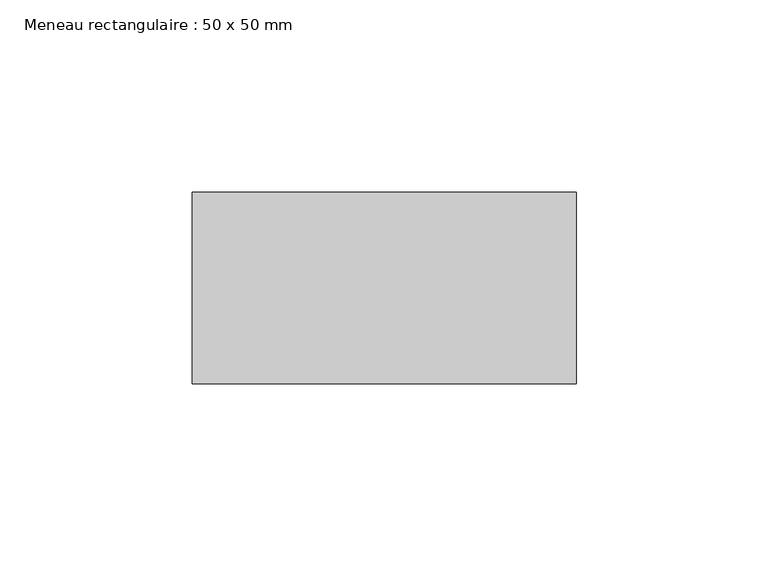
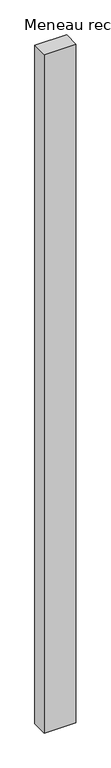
"""IFC4 building model written with IfcOpenShell, lengths in millimetres: member geometry, Meneau rectangulaire : 50 x 50 mm."""

import ifcopenshell
import ifcopenshell.guid

model = None  # the IFC model being written
_history = None  # IfcOwnerHistory: only IFC2X3 demands one
_inside = {}  # id of a spatial element -> (the spatial element, [elements in it])
_under = {}  # id of a project, library or spatial element -> (it, [spatial elements below it])
_declared = {}  # id of a project -> (the project, [libraries it declares])
_typed = {}  # id of a type object -> (the type object, [elements of that type])
_made_of = {}  # id of a material, layer set ... -> (it, [elements and type objects made of it])


def new_model(schema):
    """Start an empty IFC model of exactly this schema.

    Asked for "IFC4X3", IfcOpenShell would pick the latest addendum, in which some entities
    have other attributes; the version numbers below select the first issue.
    IFC2X3 requires an IfcOwnerHistory on every rooted entity: one is made here for all.
    """
    global model, _history
    if schema == "IFC4X3":
        model = ifcopenshell.file(schema_version=(4, 3, 0, 0))
    else:
        model = ifcopenshell.file(schema=schema)
    _inside.clear()
    _under.clear()
    _declared.clear()
    _typed.clear()
    _made_of.clear()
    _history = None
    if model.schema == "IFC2X3":
        org = make("IfcOrganization", Name="unknown")
        user = make(
            "IfcPersonAndOrganization",
            ThePerson=make("IfcPerson", FamilyName="unknown"),
            TheOrganization=org,
        )
        app = make(
            "IfcApplication",
            ApplicationDeveloper=org,
            Version="unknown",
            ApplicationFullName="unknown",
            ApplicationIdentifier="unknown",
        )
        _history = make(
            "IfcOwnerHistory",
            OwningUser=user,
            OwningApplication=app,
            ChangeAction="ADDED",
            CreationDate=0,
        )
    return model


def make(cls, **values):
    """One entity of the class cls with the attributes given. An attribute that is None is left unset."""
    return model.create_entity(
        cls, **{name: value for name, value in values.items() if value is not None}
    )


def rooted(cls, **values):
    """An entity with a GlobalId (a new one), such as an element, a storey or a relation."""
    return make(cls, GlobalId=ifcopenshell.guid.new(), OwnerHistory=_history, **values)


def si_unit(unit_type, name, prefix=None):
    """IfcSIUnit, for example si_unit("LENGTHUNIT", "METRE", prefix="MILLI")."""
    return make("IfcSIUnit", UnitType=unit_type, Prefix=prefix, Name=name)


def assignment(units):
    """IfcUnitAssignment: the units of a project."""
    return None if units is None else make("IfcUnitAssignment", Units=units)


def point(xyz):
    """IfcCartesianPoint."""
    return None if xyz is None else make("IfcCartesianPoint", Coordinates=xyz)


def direction(xyz):
    """IfcDirection."""
    return None if xyz is None else make("IfcDirection", DirectionRatios=xyz)


def frame(location, z_axis=None, x_axis=None):
    """IfcAxis2Placement3D, a coordinate frame: its origin and axes. An axis left out is left unset."""
    return make(
        "IfcAxis2Placement3D",
        Location=point(location),
        Axis=direction(z_axis),
        RefDirection=direction(x_axis),
    )


def origin():
    """The frame at (0, 0, 0) with its axes left unset."""
    return frame((0.0, 0.0, 0.0))


def place(relative_to, where):
    """IfcLocalPlacement: puts the frame where relative to a parent placement (None: the world)."""
    return make(
        "IfcLocalPlacement", PlacementRelTo=relative_to, RelativePlacement=where
    )


def context(
    kind, dimensions, precision=None, world=None, true_north=None, identifier=None
):
    """IfcGeometricRepresentationContext, for example the 3D "Model" context."""
    return make(
        "IfcGeometricRepresentationContext",
        ContextIdentifier=identifier,
        ContextType=kind,
        CoordinateSpaceDimension=dimensions,
        Precision=precision,
        WorldCoordinateSystem=world,
        TrueNorth=true_north,
    )


def project(units=None, contexts=None):
    """IfcProject with its units and contexts."""
    return rooted(
        "IfcProject",
        Name="project",
        RepresentationContexts=contexts,
        UnitsInContext=assignment(units),
    )


def spatial(cls, under=None, at=None, **own):
    """A site, building, storey or space (cls), placed at a placement, below another one or the project."""
    s = rooted(cls, ObjectPlacement=at, **own)
    if under is not None:
        _under.setdefault(under.id(), (under, []))[1].append(s)
    return s


def polyline(points):
    """IfcPolyline through the points."""
    return make("IfcPolyline", Points=[point(p) for p in points])


def outline(outer, holes=None, kind="AREA"):
    """IfcArbitraryClosedProfileDef: a profile drawn as a closed curve; with holes, ...WithVoids."""
    if holes is None:
        return make("IfcArbitraryClosedProfileDef", ProfileType=kind, OuterCurve=outer)
    return make(
        "IfcArbitraryProfileDefWithVoids",
        ProfileType=kind,
        OuterCurve=outer,
        InnerCurves=holes,
    )


def extrude(swept, where, along, depth):
    """IfcExtrudedAreaSolid: the profile swept, set in the frame where, extruded along a direction by depth."""
    return make(
        "IfcExtrudedAreaSolid",
        SweptArea=swept,
        Position=where,
        ExtrudedDirection=direction(along),
        Depth=depth,
    )


def shape(context_of_items, identifier, shape_type, items):
    """IfcShapeRepresentation: the items that make up one representation, for example the "Body"."""
    return make(
        "IfcShapeRepresentation",
        ContextOfItems=context_of_items,
        RepresentationIdentifier=identifier,
        RepresentationType=shape_type,
        Items=items,
    )


def source(mapping_origin, context_of_items, identifier, shape_type, items):
    """IfcRepresentationMap: a shape defined once, which mapped items show again and again."""
    return make(
        "IfcRepresentationMap",
        MappingOrigin=mapping_origin,
        MappedRepresentation=shape(context_of_items, identifier, shape_type, items),
    )


def transform(
    local_origin,
    x_axis=None,
    y_axis=None,
    z_axis=None,
    scale=None,
    scale2=None,
    scale3=None,
    uniform=True,
):
    """IfcCartesianTransformationOperator3D, or its non-uniform kind. x_axis, y_axis, z_axis: its Axis1, 2, 3."""
    if uniform:
        return make(
            "IfcCartesianTransformationOperator3D",
            Axis1=direction(x_axis),
            Axis2=direction(y_axis),
            LocalOrigin=point(local_origin),
            Scale=scale,
            Axis3=direction(z_axis),
        )
    return make(
        "IfcCartesianTransformationOperator3DnonUniform",
        Axis1=direction(x_axis),
        Axis2=direction(y_axis),
        LocalOrigin=point(local_origin),
        Scale=scale,
        Axis3=direction(z_axis),
        Scale2=scale2,
        Scale3=scale3,
    )


def mapped(mapping_source, mapping_target):
    """IfcMappedItem: shows the shape of a source again, moved by a transform."""
    return make(
        "IfcMappedItem", MappingSource=mapping_source, MappingTarget=mapping_target
    )


def made_of(thing, what):
    """Note that an element or type object is made of a material, layer set ...; save() writes the relation."""
    if what is not None:
        _made_of.setdefault(what.id(), (what, []))[1].append(thing)
    return thing


def element(
    cls,
    number,
    at=None,
    inside=None,
    cuts=None,
    type_object=None,
    material=None,
    context=None,
    identifier="Body",
    shape_type=None,
    held_by="IfcProductDefinitionShape",
    body=None,
    shapes=None,
    **own,
):
    """One element of the class cls, such as IfcWall. Its Tag is "e" and its number.

    at: its placement. inside: the storey or other place that contains it. cuts: it is an
    opening in that element (IfcRelVoidsElement). A single representation is given by context,
    identifier, shape_type and body (its items); several are given by shapes. held_by: the class
    of the entity that holds the representations. save() writes the other relations.
    """
    e = rooted(cls, Tag="e%d" % number, ObjectPlacement=at, **own)
    if body is not None:
        shapes = [shape(context, identifier, shape_type, body)]
    if shapes is not None:
        e.Representation = make(held_by, Representations=shapes)
    if inside is not None:
        _inside.setdefault(inside.id(), (inside, []))[1].append(e)
    if cuts is not None:
        rooted(
            "IfcRelVoidsElement", RelatingBuildingElement=cuts, RelatedOpeningElement=e
        )
    if type_object is not None:
        _typed.setdefault(type_object.id(), (type_object, []))[1].append(e)
    return made_of(e, material)


def aggregate(whole, parts):
    """IfcRelAggregates: a whole, such as a stair, and the parts it consists of."""
    return rooted("IfcRelAggregates", RelatingObject=whole, RelatedObjects=parts)


def save(model, path):
    """Write the relations noted so far, then the file.

    IfcRelAggregates (storeys below a building ...), IfcRelContainedInSpatialStructure (elements
    in a storey), IfcRelDefinesByType, IfcRelAssociatesMaterial and IfcRelDeclares: one each for
    every whole, place, type object, material and project.
    """
    for whole, parts in _under.values():
        aggregate(whole, parts)
    for where, things in _inside.values():
        rooted(
            "IfcRelContainedInSpatialStructure",
            RelatedElements=things,
            RelatingStructure=where,
        )
    for kind, things in _typed.values():
        rooted("IfcRelDefinesByType", RelatedObjects=things, RelatingType=kind)
    for what, things in _made_of.values():
        rooted("IfcRelAssociatesMaterial", RelatedObjects=things, RelatingMaterial=what)
    for by, libraries in _declared.values():
        rooted("IfcRelDeclares", RelatingContext=by, RelatedDefinitions=libraries)
    model.write(path)


def meneau_rectangulaire_50_x_50_mm_0ec26039(model_context):
    return source(origin(), model_context, "Body", "SweptSolid", [
        extrude(outline(polyline([(0.0, 0.0), (0.0, -50.0), (-100.0, -50.0), (-100.0, 0.0), (0.0, 0.0)])), frame((0.0, 0.0, -2250.0), z_axis=(0.0, 0.0, 1.0), x_axis=(1.0, 0.0, 0.0)), (0.0, 0.0, 1.0), 2250.0),
    ])


if __name__ == "__main__":
    model = new_model("IFC4")
    model_context = context("Model", 3, world=origin())
    ifc_project = project(units=[si_unit("LENGTHUNIT", "METRE", prefix="MILLI")], contexts=[model_context])
    site = spatial("IfcSite", under=ifc_project)
    building = spatial("IfcBuilding", under=site)
    placement = place(None, origin())
    meneau_rectangulaire_50_x_50_mm_shape = meneau_rectangulaire_50_x_50_mm_0ec26039(model_context)
    element("IfcMember", 1, ObjectType="Meneau rectangulaire : 50 x 50 mm", at=placement, inside=building, context=model_context, shape_type="MappedRepresentation", body=[
        mapped(meneau_rectangulaire_50_x_50_mm_shape, transform((0.0, 0.0, 0.0), x_axis=(1.0, 0.0, 0.0), y_axis=(0.0, 1.0, 0.0), z_axis=(0.0, 0.0, 1.0))),
    ])
    save(model, "model.ifc")
